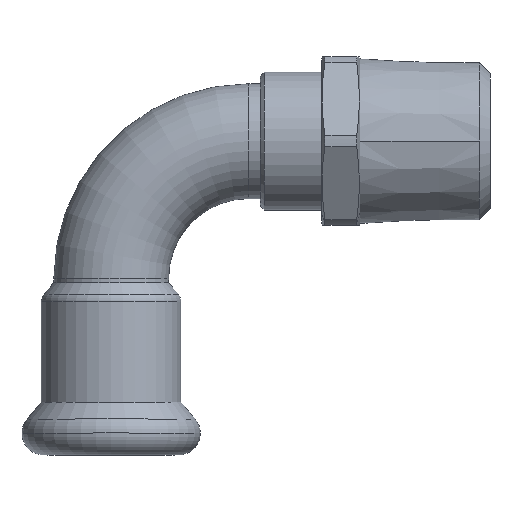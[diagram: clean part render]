
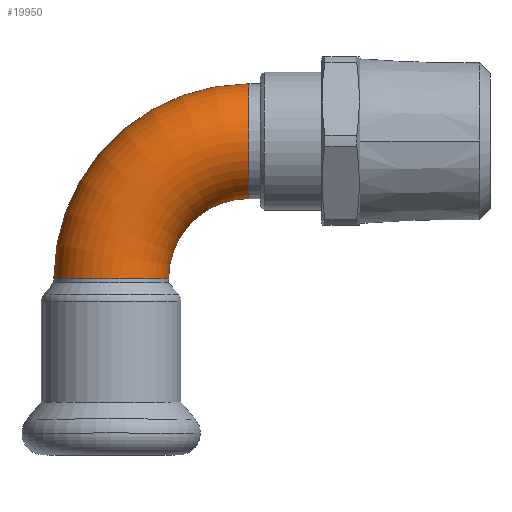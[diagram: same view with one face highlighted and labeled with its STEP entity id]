
A CAD part, top view. The second image highlights one B-rep face of the part: STEP entity #19950.
In plain terms, the highlighted toroidal (fillet/blend) face has major radius 18 mm and minor radius 7.5 mm.
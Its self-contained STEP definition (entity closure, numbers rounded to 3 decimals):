
#14090=CARTESIAN_POINT('',(-83.071,28.74,
0.));
#14100=VERTEX_POINT('',#14090);
#14180=CARTESIAN_POINT('',(-83.071,13.74,
0.));
#14190=VERTEX_POINT('',#14180);
#15390=CARTESIAN_POINT('',(-93.571,3.24,
0.));
#15400=VERTEX_POINT('',#15390);
#15450=CARTESIAN_POINT('',(-101.071,3.24,0.));
#15460=DIRECTION('',(0.,-1.,0.));
#15470=DIRECTION('',(1.,0.,0.));
#15480=AXIS2_PLACEMENT_3D('',#15450,#15460,#15470);
#15490=CIRCLE('',#15480,7.5);
#15500=CARTESIAN_POINT('',(-108.571,3.24,
0.));
#15510=VERTEX_POINT('',#15500);
#15720=CARTESIAN_POINT('',(-83.071,3.24,
0.));
#15730=DIRECTION('',(0.,0.,1.));
#15740=DIRECTION('',(0.,1.,0.));
#15750=AXIS2_PLACEMENT_3D('',#15720,#15730,#15740);
#15760=TOROIDAL_SURFACE('',#15750,18.,7.5);
#15770=CARTESIAN_POINT('',(-83.071,3.24,
0.));
#15780=DIRECTION('',(0.,0.,1.));
#15790=DIRECTION('',(0.,1.,0.));
#15800=AXIS2_PLACEMENT_3D('',#15770,#15780,#15790);
#15810=CIRCLE('',#15800,10.5);
#15820=EDGE_CURVE('',#14190,#15400,#15810,.T.);
#15850=CARTESIAN_POINT('',(-83.071,3.24,
0.));
#15860=DIRECTION('',(0.,0.,1.));
#15870=DIRECTION('',(0.,1.,0.));
#15880=AXIS2_PLACEMENT_3D('',#15850,#15860,#15870);
#15890=CIRCLE('',#15880,25.5);
#15900=EDGE_CURVE('',#14100,#15510,#15890,.T.);
#19820=EDGE_CURVE('',#15400,#15510,#15490,.T.);
#19830=ORIENTED_EDGE('',*,*,#19820,.F.);
#19840=ORIENTED_EDGE('',*,*,#15900,.T.);
#19850=CARTESIAN_POINT('',(-83.071,21.24,
0.));
#19860=DIRECTION('',(-1.,0.,0.));
#19870=DIRECTION('',(0.,-1.,0.));
#19880=AXIS2_PLACEMENT_3D('',#19850,#19860,#19870);
#19890=CIRCLE('',#19880,7.5);
#19900=EDGE_CURVE('',#14190,#14100,#19890,.T.);
#19910=ORIENTED_EDGE('',*,*,#19900,.T.);
#19920=ORIENTED_EDGE('',*,*,#15820,.F.);
#19930=EDGE_LOOP('',(#19920,#19910,#19840,#19830));
#19940=FACE_OUTER_BOUND('',#19930,.T.);
#19950=ADVANCED_FACE('',(#19940),#15760,.T.);
